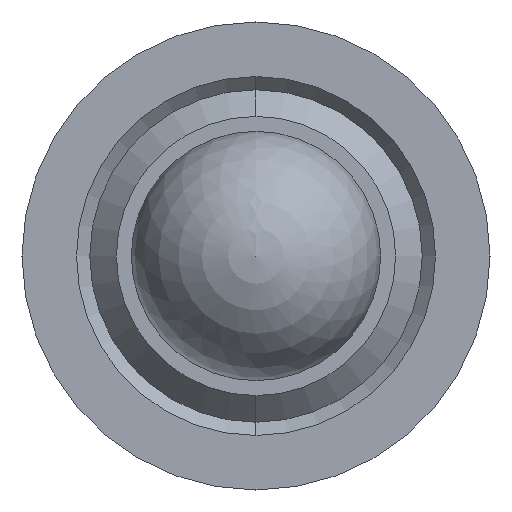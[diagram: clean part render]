
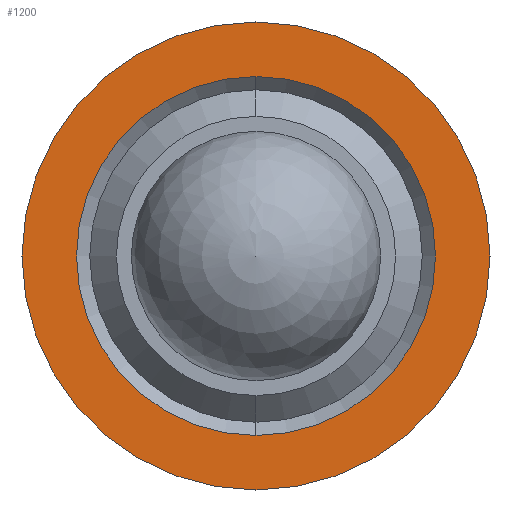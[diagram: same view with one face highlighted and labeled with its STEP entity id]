
A CAD part, left-side view. The second image highlights one B-rep face of the part: STEP entity #1200.
In plain terms, the highlighted planar face has unit normal (-1, 0, 0).
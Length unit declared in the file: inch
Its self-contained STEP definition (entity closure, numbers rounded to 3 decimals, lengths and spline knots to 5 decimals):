
#7 = DIRECTION ( 'NONE',  ( 0., 0., -1. ) ) ;
#50 = DIRECTION ( 'NONE',  ( 1., 0., 0. ) ) ;
#75 = VERTEX_POINT ( 'NONE', #116 ) ;
#92 = EDGE_CURVE ( 'NONE', #75, #605, #112, .T. ) ;
#112 = CIRCLE ( 'NONE', #1525, 0.176 ) ;
#116 = CARTESIAN_POINT ( 'NONE',  ( 0.11199, 0.77001, 0.74578 ) ) ;
#136 = DIRECTION ( 'NONE',  ( -1., 0., 0. ) ) ;
#145 = AXIS2_PLACEMENT_3D ( 'NONE', #1348, #297, #1324 ) ;
#164 = CARTESIAN_POINT ( 'NONE',  ( 0.11199, 0.77001, 1.05678 ) ) ;
#186 = CARTESIAN_POINT ( 'NONE',  ( 0.11199, 0.77001, 0.92178 ) ) ;
#213 = AXIS2_PLACEMENT_3D ( 'NONE', #545, #50, #7 ) ;
#233 = DIRECTION ( 'NONE',  ( 0., 0., 1. ) ) ;
#243 = ORIENTED_EDGE ( 'NONE', *, *, #1209, .T. ) ;
#297 = DIRECTION ( 'NONE',  ( -1., 0., 0. ) ) ;
#332 = VERTEX_POINT ( 'NONE', #164 ) ;
#356 = CARTESIAN_POINT ( 'NONE',  ( 0.11199, 0.77001, 1.09778 ) ) ;
#545 = CARTESIAN_POINT ( 'NONE',  ( 0.11199, 0.77001, 0.92178 ) ) ;
#605 = VERTEX_POINT ( 'NONE', #356 ) ;
#759 = ORIENTED_EDGE ( 'NONE', *, *, #1263, .T. ) ;
#781 = DIRECTION ( 'NONE',  ( 0., 0., -1. ) ) ;
#785 = CIRCLE ( 'NONE', #1442, 0.135 ) ;
#800 = DIRECTION ( 'NONE',  ( 1., 0., 0. ) ) ;
#804 = CARTESIAN_POINT ( 'NONE',  ( 0.11199, 0.77001, 0.92178 ) ) ;
#868 = CARTESIAN_POINT ( 'NONE',  ( 0.11199, 0.77001, 0.78678 ) ) ;
#926 = ORIENTED_EDGE ( 'NONE', *, *, #92, .T. ) ;
#1099 = FACE_OUTER_BOUND ( 'NONE', #1171, .T. ) ;
#1100 = ORIENTED_EDGE ( 'NONE', *, *, #1300, .T. ) ;
#1171 = EDGE_LOOP ( 'NONE', ( #759, #926 ) ) ;
#1194 = EDGE_LOOP ( 'NONE', ( #243, #1100 ) ) ;
#1200 = ADVANCED_FACE ( 'NONE', ( #1487, #1099 ), #1207, .F. ) ;
#1207 = PLANE ( 'NONE',  #1529 ) ;
#1209 = EDGE_CURVE ( 'NONE', #332, #1226, #785, .T. ) ;
#1221 = DIRECTION ( 'NONE',  ( 0., 0., -1. ) ) ;
#1226 = VERTEX_POINT ( 'NONE', #868 ) ;
#1263 = EDGE_CURVE ( 'NONE', #605, #75, #1396, .T. ) ;
#1300 = EDGE_CURVE ( 'NONE', #1226, #332, #1362, .T. ) ;
#1324 = DIRECTION ( 'NONE',  ( 0., 0., 1. ) ) ;
#1348 = CARTESIAN_POINT ( 'NONE',  ( 0.11199, 0.77001, 0.92178 ) ) ;
#1362 = CIRCLE ( 'NONE', #213, 0.135 ) ;
#1396 = CIRCLE ( 'NONE', #145, 0.176 ) ;
#1442 = AXIS2_PLACEMENT_3D ( 'NONE', #804, #800, #781 ) ;
#1480 = DIRECTION ( 'NONE',  ( 1., 0., 0. ) ) ;
#1483 = CARTESIAN_POINT ( 'NONE',  ( 0.11199, 0.77001, 0.92178 ) ) ;
#1487 = FACE_BOUND ( 'NONE', #1194, .T. ) ;
#1525 = AXIS2_PLACEMENT_3D ( 'NONE', #186, #136, #233 ) ;
#1529 = AXIS2_PLACEMENT_3D ( 'NONE', #1483, #1480, #1221 ) ;
